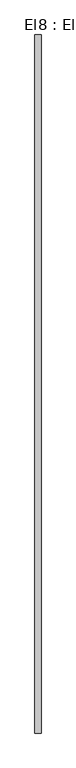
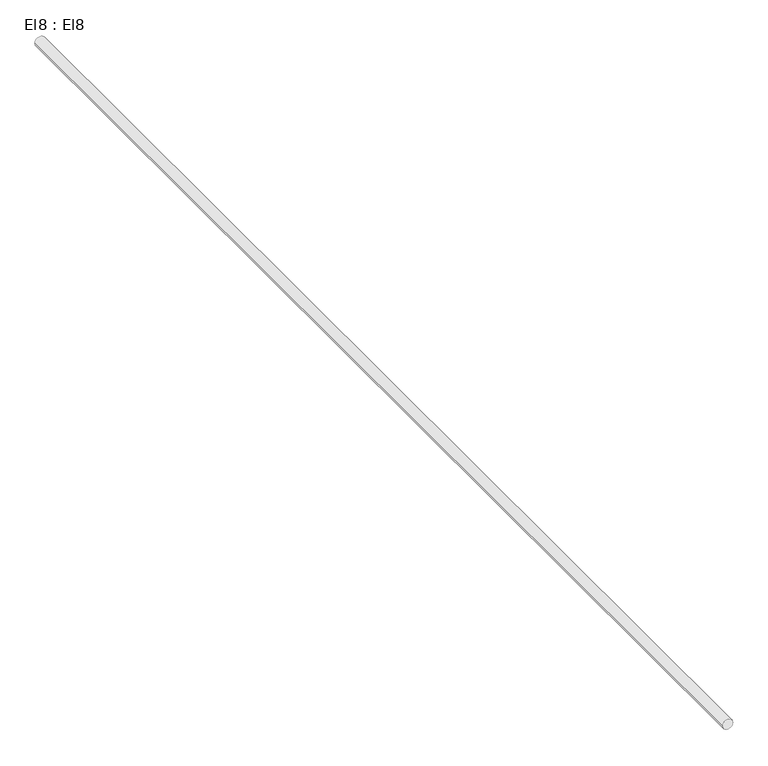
"""IFC4 building model written with IfcOpenShell, lengths in millimetres: cable carrier segment geometry, El8 : El8."""

from ifc_helpers import new_model, si_unit, point, frame, frame_2d, origin, place, context, project, spatial, circle_curve, trimmed, segment, composite_curve, outline, extrude, source, transform, mapped, element, save


def el8_el8_6637c1aa(model_context):
    return source(origin(), model_context, "Body", "SweptSolid", [
        extrude(outline(composite_curve([segment(trimmed(circle_curve(frame_2d((2950.0, 5750.0)), 9.5), [point((2950.0, 5740.5))], [point((2950.0, 5759.5))], False, "CARTESIAN"), True, "CONTINUOUS"), segment(trimmed(circle_curve(frame_2d((2950.0, 5750.0)), 9.5), [point((2950.0, 5759.5))], [point((2950.0, 5740.5))], False, "CARTESIAN"), True, "CONTINUOUS")], self_intersect=False)), frame((0.0, 9850.7, 0.0), z_axis=(0.0, 1.0, 0.0), x_axis=(0.0, 0.0, 1.0)), (0.0, 0.0, 1.0), 2155.0),
    ])


if __name__ == "__main__":
    model = new_model("IFC4")
    model_context = context("Model", 3, world=origin())
    ifc_project = project(units=[si_unit("LENGTHUNIT", "METRE", prefix="MILLI")], contexts=[model_context])
    site = spatial("IfcSite", under=ifc_project)
    building = spatial("IfcBuilding", under=site)
    placement = place(None, origin())
    el8_el8_shape = el8_el8_6637c1aa(model_context)
    element("IfcCableCarrierSegment", 1, ObjectType="El8 : El8", at=placement, inside=building, context=model_context, shape_type="MappedRepresentation", body=[
        mapped(el8_el8_shape, transform((0.0, 0.0, 0.0), x_axis=(1.0, 0.0, 0.0), y_axis=(0.0, 1.0, 0.0), z_axis=(0.0, 0.0, 1.0))),
    ])
    save(model, "model.ifc")
